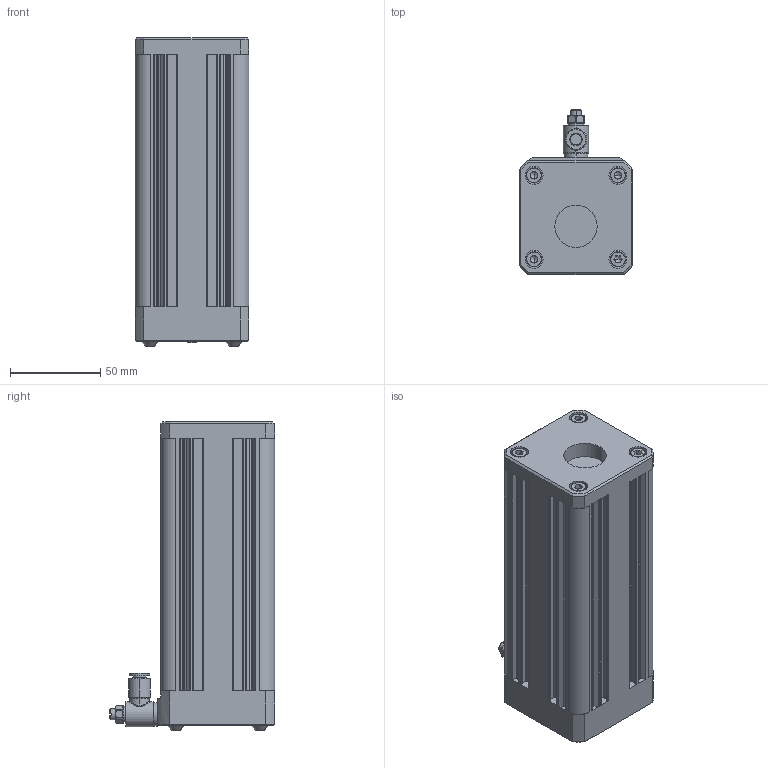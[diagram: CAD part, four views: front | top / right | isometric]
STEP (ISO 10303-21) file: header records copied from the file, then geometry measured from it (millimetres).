
FILE_DESCRIPTION (( 'STEP AP203' ), '1' );
FILE_NAME ('VNOK-B-AL-E-0050-0140.STEP', '2019-02-06T12:58:28', ( '' ), ( '' ), 'SwSTEP 2.0', 'SolidWorks 2018', '' );
FILE_SCHEMA (( 'CONFIG_CONTROL_DESIGN' ));
Length unit declared in the file: millimetre
Products named in the file (1): VNOK-B-AL-E-0050-0140
Bounding box: 63 x 91.6 x 170.75 mm (x, y, z)
Volume: 613762.7 mm3; surface area: 67325.9 mm2
Topology: 1 solids, 12 shells, 559 faces, 1385 edges, 875 vertices
Faces by surface type: plane 276, cylinder 195, bspline 45, cone 43
Entity records: 19117 total; most frequent: CARTESIAN_POINT 5676, DIRECTION 2876, ORIENTED_EDGE 2738, EDGE_CURVE 1369, AXIS2_PLACEMENT_3D 1064, VERTEX_POINT 875, LINE 748, VECTOR 748
